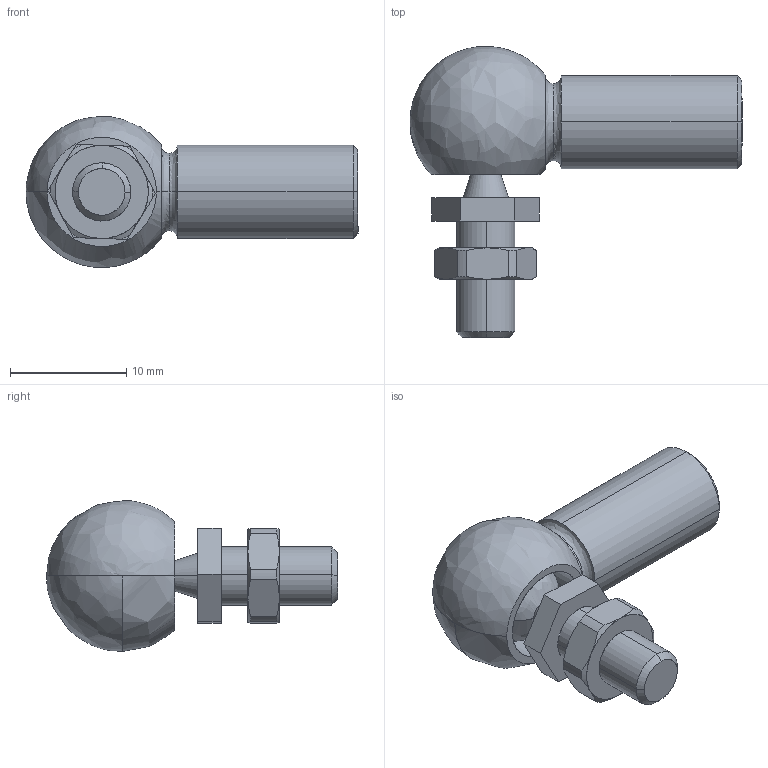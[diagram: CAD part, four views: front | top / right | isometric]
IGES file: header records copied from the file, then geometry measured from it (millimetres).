
Start section: SolidWorks IGES file using analytic representation for surfaces
Bounding box: 28.5 x 25 x 12.95 mm (x, y, z)
Surface area: 1663.6 mm2 (no closed solid volume)
Topology: 0 solids, 0 shells, 93 faces, 870 edges, 861 vertices
Faces by surface type: revolution 63, bspline 30
